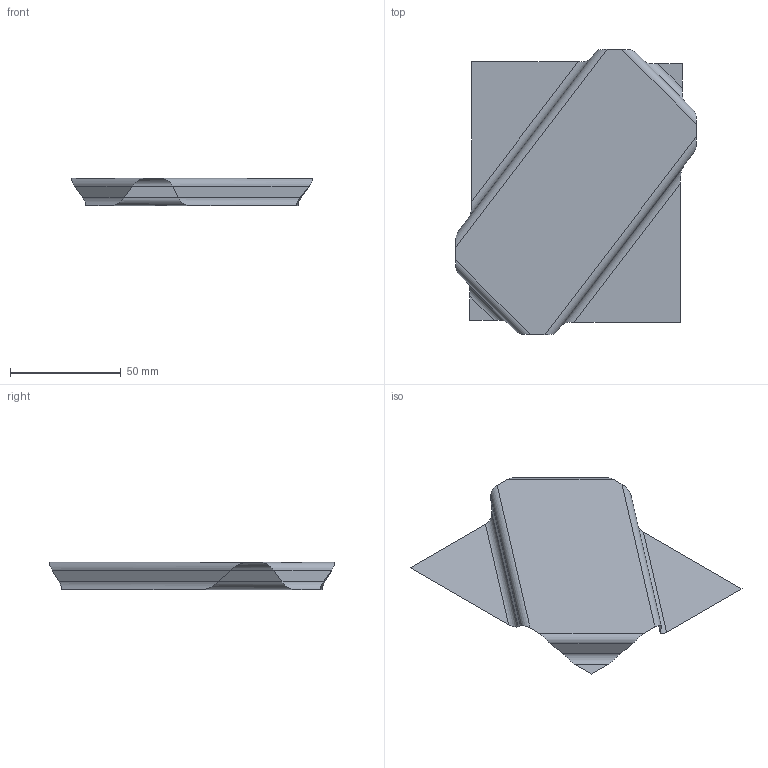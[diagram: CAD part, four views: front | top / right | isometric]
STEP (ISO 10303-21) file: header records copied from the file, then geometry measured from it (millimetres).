
FILE_DESCRIPTION(('CATIA V5 STEP Exchange'),'2;1');
FILE_NAME('C:\_Andres\UNIVERSIDAD\IQS\ASIGNATURAS\DAO\EXF\EXF-15161c\1original\Postius_Echeverri_Ej03-chapa_v19.stp','2016-03-04T16:56:04+00:00',('none'),('none'),'CATIA Version 5 Release 20 SP 1 (IN-10)','CATIA V5 STEP AP203','none');
FILE_SCHEMA(('CONFIG_CONTROL_DESIGN'));
Length unit declared in the file: millimetre
Products named in the file (1): Postius_Echeverri_Ej03-chapa_v19
Bounding box: 109.01 x 129.01 x 12.29 mm (x, y, z)
Surface area: 14105.5 mm2 (no closed solid volume)
Topology: 0 solids, 1 shells, 17 faces, 52 edges, 36 vertices
Faces by surface type: plane 9, cylinder 8
Entity records: 622 total; most frequent: CARTESIAN_POINT 203, ORIENTED_EDGE 68, DIRECTION 56, EDGE_CURVE 52, VERTEX_POINT 36, B_SPLINE_CURVE_WITH_KNOTS 32, VECTOR 20, LINE 20
